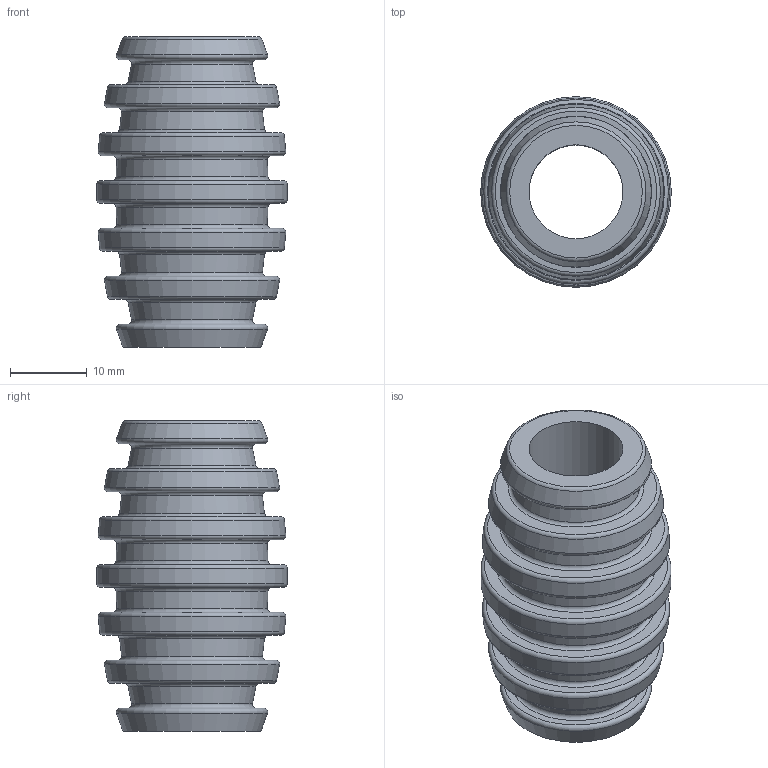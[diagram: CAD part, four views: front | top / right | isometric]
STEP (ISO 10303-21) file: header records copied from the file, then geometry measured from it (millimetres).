
FILE_DESCRIPTION(/* description */ (''),/* implementation_level */ '2;1');
FILE_NAME(/* name */ 'Component1.step',/* time_stamp */ '2025-12-02T16:45:30+01:00',/* author */ (''),/* organization */ (''),/* preprocessor_version */ 'ST-DEVELOPER v20.1',/* originating_system */ 'Autodesk Translation Framework v14.21.0.0',/* authorisation */ '');
FILE_SCHEMA (('AUTOMOTIVE_DESIGN { 1 0 10303 214 3 1 1 }'));
Length unit declared in the file: millimetre
Products named in the file (1): 2025-12-02-16-45-30-550
Bounding box: 24.86 x 24.86 x 40.5 mm (x, y, z)
Volume: 8643.3 mm3; surface area: 5993.1 mm2
Topology: 1 solids, 1 shells, 53 faces, 105 edges, 66 vertices
Faces by surface type: torus 25, plane 14, cone 12, cylinder 2
Full cylindrical faces by diameter (mm): 12.25 x1, 24.86 x1
Entity records: 1458 total; most frequent: DIRECTION 304, CARTESIAN_POINT 225, ORIENTED_EDGE 210, AXIS2_PLACEMENT_3D 145, EDGE_CURVE 105, CIRCLE 91, EDGE_LOOP 67, VERTEX_POINT 66
